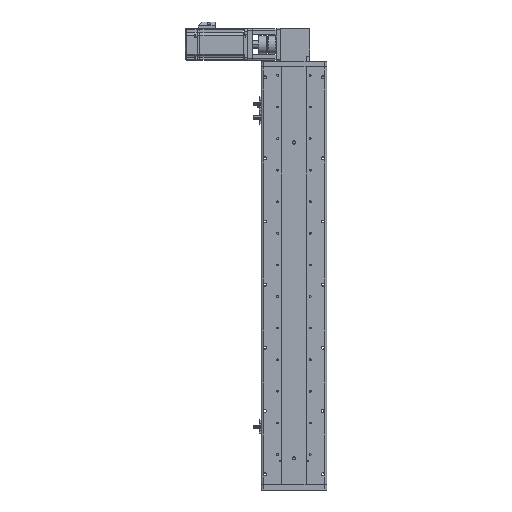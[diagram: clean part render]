
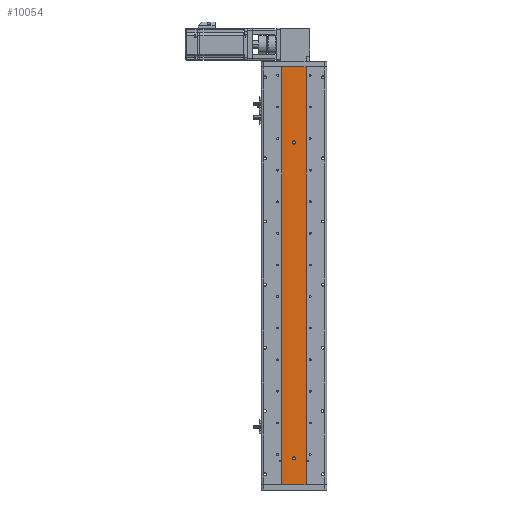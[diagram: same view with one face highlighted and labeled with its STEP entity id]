
A CAD part, front view. The second image highlights one B-rep face of the part: STEP entity #10054.
In plain terms, the highlighted planar face has unit normal (0, -1, 0).
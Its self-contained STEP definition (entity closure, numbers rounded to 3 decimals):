
#2033 = AXIS2_PLACEMENT_3D ( 'NONE', #60246, #32260, #4208 ) ;
#2306 = FACE_OUTER_BOUND ( 'NONE', #55637, .T. ) ;
#2516 = CIRCLE ( 'NONE', #21519, 3. ) ;
#2658 = CARTESIAN_POINT ( 'NONE',  ( 0., 1., 250. ) ) ;
#2992 = CARTESIAN_POINT ( 'NONE',  ( 0., 1., -347. ) ) ;
#3446 = AXIS2_PLACEMENT_3D ( 'NONE', #19660, #5758, #38505 ) ;
#3994 = DIRECTION ( 'NONE',  ( 1., 0., 0. ) ) ;
#4208 = DIRECTION ( 'NONE',  ( 0., 0., -1. ) ) ;
#4991 = ORIENTED_EDGE ( 'NONE', *, *, #30823, .F. ) ;
#5758 = DIRECTION ( 'NONE',  ( 0., 1., 0. ) ) ;
#6781 = VECTOR ( 'NONE', #16093, 1000. ) ;
#7641 = VERTEX_POINT ( 'NONE', #37510 ) ;
#7676 = DIRECTION ( 'NONE',  ( 0., 0., -1. ) ) ;
#8313 = VERTEX_POINT ( 'NONE', #39249 ) ;
#8590 = EDGE_CURVE ( 'NONE', #12935, #8313, #26747, .T. ) ;
#10054 = ADVANCED_FACE ( 'NONE', ( #13255, #38148, #2306 ), #33821, .F. ) ;
#11438 = CARTESIAN_POINT ( 'NONE',  ( 23., 1., -397. ) ) ;
#12935 = VERTEX_POINT ( 'NONE', #50154 ) ;
#13072 = EDGE_LOOP ( 'NONE', ( #52290, #58063 ) ) ;
#13255 = FACE_BOUND ( 'NONE', #13072, .T. ) ;
#14424 = VERTEX_POINT ( 'NONE', #58790 ) ;
#15429 = CARTESIAN_POINT ( 'NONE',  ( 23., 1., -397. ) ) ;
#16093 = DIRECTION ( 'NONE',  ( 0., 0., -1. ) ) ;
#17567 = LINE ( 'NONE', #18246, #50471 ) ;
#18246 = CARTESIAN_POINT ( 'NONE',  ( 23., 1., 397.001 ) ) ;
#18675 = ORIENTED_EDGE ( 'NONE', *, *, #50290, .F. ) ;
#19660 = CARTESIAN_POINT ( 'NONE',  ( 23., 1., 397.001 ) ) ;
#20551 = CARTESIAN_POINT ( 'NONE',  ( -23., 1., 397.001 ) ) ;
#20848 = DIRECTION ( 'NONE',  ( 1., 0., 0. ) ) ;
#21517 = CARTESIAN_POINT ( 'NONE',  ( 0., 1., -347. ) ) ;
#21519 = AXIS2_PLACEMENT_3D ( 'NONE', #21517, #54231, #26229 ) ;
#22271 = ORIENTED_EDGE ( 'NONE', *, *, #24240, .T. ) ;
#24240 = EDGE_CURVE ( 'NONE', #36161, #14424, #31718, .T. ) ;
#25016 = CARTESIAN_POINT ( 'NONE',  ( 0., 1., 253. ) ) ;
#26229 = DIRECTION ( 'NONE',  ( 0., 0., -1. ) ) ;
#26440 = AXIS2_PLACEMENT_3D ( 'NONE', #25016, #57758, #29771 ) ;
#26747 = CIRCLE ( 'NONE', #42102, 3. ) ;
#28749 = LINE ( 'NONE', #11438, #52132 ) ;
#28871 = VERTEX_POINT ( 'NONE', #15429 ) ;
#29288 = CARTESIAN_POINT ( 'NONE',  ( 23., 1., 397. ) ) ;
#29349 = ORIENTED_EDGE ( 'NONE', *, *, #8590, .F. ) ;
#29771 = DIRECTION ( 'NONE',  ( 0., 0., -1. ) ) ;
#30823 = EDGE_CURVE ( 'NONE', #8313, #12935, #2516, .T. ) ;
#31370 = EDGE_CURVE ( 'NONE', #14424, #28871, #28749, .T. ) ;
#31394 = VERTEX_POINT ( 'NONE', #2658 ) ;
#31718 = LINE ( 'NONE', #20551, #6781 ) ;
#32260 = DIRECTION ( 'NONE',  ( 0., -1., 0. ) ) ;
#32408 = DIRECTION ( 'NONE',  ( 0., 0., -1. ) ) ;
#33409 = EDGE_CURVE ( 'NONE', #31394, #7641, #35804, .T. ) ;
#33821 = PLANE ( 'NONE',  #3446 ) ;
#35714 = DIRECTION ( 'NONE',  ( 0., -1., 0. ) ) ;
#35804 = CIRCLE ( 'NONE', #2033, 3. ) ;
#35961 = LINE ( 'NONE', #59400, #59349 ) ;
#36161 = VERTEX_POINT ( 'NONE', #52619 ) ;
#36210 = EDGE_CURVE ( 'NONE', #7641, #31394, #44443, .T. ) ;
#37510 = CARTESIAN_POINT ( 'NONE',  ( 0., 1., 256. ) ) ;
#38148 = FACE_BOUND ( 'NONE', #53695, .T. ) ;
#38505 = DIRECTION ( 'NONE',  ( 0., 0., 1. ) ) ;
#39249 = CARTESIAN_POINT ( 'NONE',  ( 0., 1., -350. ) ) ;
#40829 = ORIENTED_EDGE ( 'NONE', *, *, #31370, .T. ) ;
#42102 = AXIS2_PLACEMENT_3D ( 'NONE', #2992, #35714, #7676 ) ;
#44443 = CIRCLE ( 'NONE', #26440, 3. ) ;
#44860 = ORIENTED_EDGE ( 'NONE', *, *, #55533, .F. ) ;
#50154 = CARTESIAN_POINT ( 'NONE',  ( 0., 1., -344. ) ) ;
#50290 = EDGE_CURVE ( 'NONE', #36161, #58421, #35961, .T. ) ;
#50471 = VECTOR ( 'NONE', #32408, 1000. ) ;
#52132 = VECTOR ( 'NONE', #20848, 1000. ) ;
#52290 = ORIENTED_EDGE ( 'NONE', *, *, #33409, .F. ) ;
#52619 = CARTESIAN_POINT ( 'NONE',  ( -23., 1., 397. ) ) ;
#53695 = EDGE_LOOP ( 'NONE', ( #4991, #29349 ) ) ;
#54231 = DIRECTION ( 'NONE',  ( 0., -1., 0. ) ) ;
#55533 = EDGE_CURVE ( 'NONE', #58421, #28871, #17567, .T. ) ;
#55637 = EDGE_LOOP ( 'NONE', ( #22271, #40829, #44860, #18675 ) ) ;
#57758 = DIRECTION ( 'NONE',  ( 0., -1., 0. ) ) ;
#58063 = ORIENTED_EDGE ( 'NONE', *, *, #36210, .F. ) ;
#58421 = VERTEX_POINT ( 'NONE', #29288 ) ;
#58790 = CARTESIAN_POINT ( 'NONE',  ( -23., 1., -397. ) ) ;
#59349 = VECTOR ( 'NONE', #3994, 1000. ) ;
#59400 = CARTESIAN_POINT ( 'NONE',  ( 23., 1., 397. ) ) ;
#60246 = CARTESIAN_POINT ( 'NONE',  ( 0., 1., 253. ) ) ;
